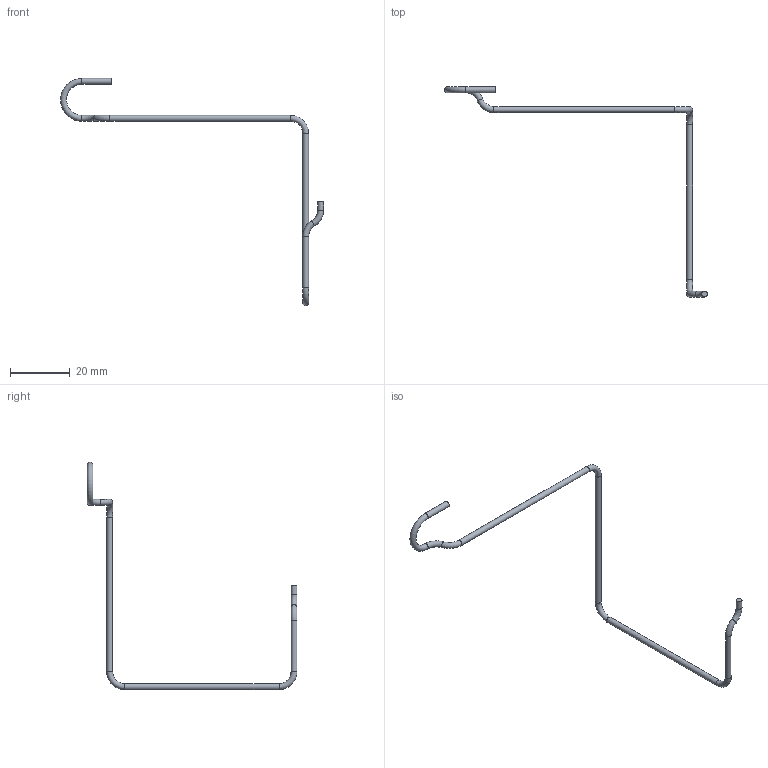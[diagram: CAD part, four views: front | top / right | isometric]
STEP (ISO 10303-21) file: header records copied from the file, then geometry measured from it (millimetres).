
FILE_DESCRIPTION(('Open CASCADE Model'),'2;1');
FILE_NAME('Open CASCADE Shape Model','2026-10-07T05:14:29',('Author'),( 'Open CASCADE'),'Open CASCADE STEP processor 7.7','Open CASCADE 7.7' ,'Unknown');
FILE_SCHEMA(('AUTOMOTIVE_DESIGN { 1 0 10303 214 1 1 1 1 }'));
Length unit declared in the file: millimetre
Products named in the file (1): Open CASCADE STEP translator 7.7 1
Bounding box: 88.2 x 70.39 x 76.2 mm (x, y, z)
Volume: 817.4 mm3; surface area: 1641 mm2
Topology: 1 solids, 1 shells, 16 faces, 29 edges, 15 vertices
Faces by surface type: torus 8, cylinder 6, plane 2
Full cylindrical faces by diameter (mm): 2 x6
Entity records: 752 total; most frequent: CARTESIAN_POINT 146, DIRECTION 117, ORIENTED_EDGE 58, PCURVE 58, DEFINITIONAL_REPRESENTATION 58, AXIS2_PLACEMENT_3D 40, LINE 35, VECTOR 35
